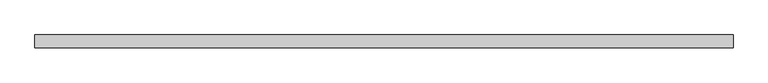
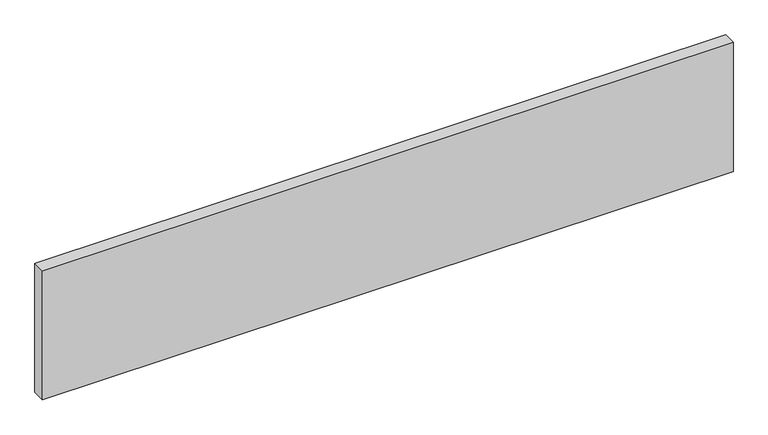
"""IFC4 building model written with IfcOpenShell, lengths in millimetres: beam geometry, Trus Joist - Rim Board Material : TJ® Rim Board – 11 7/8 x 1 1/8”."""

import ifcopenshell
import ifcopenshell.guid

model = None  # the IFC model being written
_history = None  # IfcOwnerHistory: only IFC2X3 demands one
_inside = {}  # id of a spatial element -> (the spatial element, [elements in it])
_under = {}  # id of a project, library or spatial element -> (it, [spatial elements below it])
_declared = {}  # id of a project -> (the project, [libraries it declares])
_typed = {}  # id of a type object -> (the type object, [elements of that type])
_made_of = {}  # id of a material, layer set ... -> (it, [elements and type objects made of it])


def new_model(schema):
    """Start an empty IFC model of exactly this schema.

    Asked for "IFC4X3", IfcOpenShell would pick the latest addendum, in which some entities
    have other attributes; the version numbers below select the first issue.
    IFC2X3 requires an IfcOwnerHistory on every rooted entity: one is made here for all.
    """
    global model, _history
    if schema == "IFC4X3":
        model = ifcopenshell.file(schema_version=(4, 3, 0, 0))
    else:
        model = ifcopenshell.file(schema=schema)
    _inside.clear()
    _under.clear()
    _declared.clear()
    _typed.clear()
    _made_of.clear()
    _history = None
    if model.schema == "IFC2X3":
        org = make("IfcOrganization", Name="unknown")
        user = make(
            "IfcPersonAndOrganization",
            ThePerson=make("IfcPerson", FamilyName="unknown"),
            TheOrganization=org,
        )
        app = make(
            "IfcApplication",
            ApplicationDeveloper=org,
            Version="unknown",
            ApplicationFullName="unknown",
            ApplicationIdentifier="unknown",
        )
        _history = make(
            "IfcOwnerHistory",
            OwningUser=user,
            OwningApplication=app,
            ChangeAction="ADDED",
            CreationDate=0,
        )
    return model


def make(cls, **values):
    """One entity of the class cls with the attributes given. An attribute that is None is left unset."""
    return model.create_entity(
        cls, **{name: value for name, value in values.items() if value is not None}
    )


def rooted(cls, **values):
    """An entity with a GlobalId (a new one), such as an element, a storey or a relation."""
    return make(cls, GlobalId=ifcopenshell.guid.new(), OwnerHistory=_history, **values)


def si_unit(unit_type, name, prefix=None):
    """IfcSIUnit, for example si_unit("LENGTHUNIT", "METRE", prefix="MILLI")."""
    return make("IfcSIUnit", UnitType=unit_type, Prefix=prefix, Name=name)


def assignment(units):
    """IfcUnitAssignment: the units of a project."""
    return None if units is None else make("IfcUnitAssignment", Units=units)


def point(xyz):
    """IfcCartesianPoint."""
    return None if xyz is None else make("IfcCartesianPoint", Coordinates=xyz)


def direction(xyz):
    """IfcDirection."""
    return None if xyz is None else make("IfcDirection", DirectionRatios=xyz)


def frame(location, z_axis=None, x_axis=None):
    """IfcAxis2Placement3D, a coordinate frame: its origin and axes. An axis left out is left unset."""
    return make(
        "IfcAxis2Placement3D",
        Location=point(location),
        Axis=direction(z_axis),
        RefDirection=direction(x_axis),
    )


def origin():
    """The frame at (0, 0, 0) with its axes left unset."""
    return frame((0.0, 0.0, 0.0))


def place(relative_to, where):
    """IfcLocalPlacement: puts the frame where relative to a parent placement (None: the world)."""
    return make(
        "IfcLocalPlacement", PlacementRelTo=relative_to, RelativePlacement=where
    )


def context(
    kind, dimensions, precision=None, world=None, true_north=None, identifier=None
):
    """IfcGeometricRepresentationContext, for example the 3D "Model" context."""
    return make(
        "IfcGeometricRepresentationContext",
        ContextIdentifier=identifier,
        ContextType=kind,
        CoordinateSpaceDimension=dimensions,
        Precision=precision,
        WorldCoordinateSystem=world,
        TrueNorth=true_north,
    )


def project(units=None, contexts=None):
    """IfcProject with its units and contexts."""
    return rooted(
        "IfcProject",
        Name="project",
        RepresentationContexts=contexts,
        UnitsInContext=assignment(units),
    )


def spatial(cls, under=None, at=None, **own):
    """A site, building, storey or space (cls), placed at a placement, below another one or the project."""
    s = rooted(cls, ObjectPlacement=at, **own)
    if under is not None:
        _under.setdefault(under.id(), (under, []))[1].append(s)
    return s


def polyline(points):
    """IfcPolyline through the points."""
    return make("IfcPolyline", Points=[point(p) for p in points])


def outline(outer, holes=None, kind="AREA"):
    """IfcArbitraryClosedProfileDef: a profile drawn as a closed curve; with holes, ...WithVoids."""
    if holes is None:
        return make("IfcArbitraryClosedProfileDef", ProfileType=kind, OuterCurve=outer)
    return make(
        "IfcArbitraryProfileDefWithVoids",
        ProfileType=kind,
        OuterCurve=outer,
        InnerCurves=holes,
    )


def extrude(swept, where, along, depth):
    """IfcExtrudedAreaSolid: the profile swept, set in the frame where, extruded along a direction by depth."""
    return make(
        "IfcExtrudedAreaSolid",
        SweptArea=swept,
        Position=where,
        ExtrudedDirection=direction(along),
        Depth=depth,
    )


def shape(context_of_items, identifier, shape_type, items):
    """IfcShapeRepresentation: the items that make up one representation, for example the "Body"."""
    return make(
        "IfcShapeRepresentation",
        ContextOfItems=context_of_items,
        RepresentationIdentifier=identifier,
        RepresentationType=shape_type,
        Items=items,
    )


def source(mapping_origin, context_of_items, identifier, shape_type, items):
    """IfcRepresentationMap: a shape defined once, which mapped items show again and again."""
    return make(
        "IfcRepresentationMap",
        MappingOrigin=mapping_origin,
        MappedRepresentation=shape(context_of_items, identifier, shape_type, items),
    )


def transform(
    local_origin,
    x_axis=None,
    y_axis=None,
    z_axis=None,
    scale=None,
    scale2=None,
    scale3=None,
    uniform=True,
):
    """IfcCartesianTransformationOperator3D, or its non-uniform kind. x_axis, y_axis, z_axis: its Axis1, 2, 3."""
    if uniform:
        return make(
            "IfcCartesianTransformationOperator3D",
            Axis1=direction(x_axis),
            Axis2=direction(y_axis),
            LocalOrigin=point(local_origin),
            Scale=scale,
            Axis3=direction(z_axis),
        )
    return make(
        "IfcCartesianTransformationOperator3DnonUniform",
        Axis1=direction(x_axis),
        Axis2=direction(y_axis),
        LocalOrigin=point(local_origin),
        Scale=scale,
        Axis3=direction(z_axis),
        Scale2=scale2,
        Scale3=scale3,
    )


def mapped(mapping_source, mapping_target):
    """IfcMappedItem: shows the shape of a source again, moved by a transform."""
    return make(
        "IfcMappedItem", MappingSource=mapping_source, MappingTarget=mapping_target
    )


def made_of(thing, what):
    """Note that an element or type object is made of a material, layer set ...; save() writes the relation."""
    if what is not None:
        _made_of.setdefault(what.id(), (what, []))[1].append(thing)
    return thing


def element(
    cls,
    number,
    at=None,
    inside=None,
    cuts=None,
    type_object=None,
    material=None,
    context=None,
    identifier="Body",
    shape_type=None,
    held_by="IfcProductDefinitionShape",
    body=None,
    shapes=None,
    **own,
):
    """One element of the class cls, such as IfcWall. Its Tag is "e" and its number.

    at: its placement. inside: the storey or other place that contains it. cuts: it is an
    opening in that element (IfcRelVoidsElement). A single representation is given by context,
    identifier, shape_type and body (its items); several are given by shapes. held_by: the class
    of the entity that holds the representations. save() writes the other relations.
    """
    e = rooted(cls, Tag="e%d" % number, ObjectPlacement=at, **own)
    if body is not None:
        shapes = [shape(context, identifier, shape_type, body)]
    if shapes is not None:
        e.Representation = make(held_by, Representations=shapes)
    if inside is not None:
        _inside.setdefault(inside.id(), (inside, []))[1].append(e)
    if cuts is not None:
        rooted(
            "IfcRelVoidsElement", RelatingBuildingElement=cuts, RelatedOpeningElement=e
        )
    if type_object is not None:
        _typed.setdefault(type_object.id(), (type_object, []))[1].append(e)
    return made_of(e, material)


def aggregate(whole, parts):
    """IfcRelAggregates: a whole, such as a stair, and the parts it consists of."""
    return rooted("IfcRelAggregates", RelatingObject=whole, RelatedObjects=parts)


def save(model, path):
    """Write the relations noted so far, then the file.

    IfcRelAggregates (storeys below a building ...), IfcRelContainedInSpatialStructure (elements
    in a storey), IfcRelDefinesByType, IfcRelAssociatesMaterial and IfcRelDeclares: one each for
    every whole, place, type object, material and project.
    """
    for whole, parts in _under.values():
        aggregate(whole, parts)
    for where, things in _inside.values():
        rooted(
            "IfcRelContainedInSpatialStructure",
            RelatedElements=things,
            RelatingStructure=where,
        )
    for kind, things in _typed.values():
        rooted("IfcRelDefinesByType", RelatedObjects=things, RelatingType=kind)
    for what, things in _made_of.values():
        rooted("IfcRelAssociatesMaterial", RelatedObjects=things, RelatingMaterial=what)
    for by, libraries in _declared.values():
        rooted("IfcRelDeclares", RelatingContext=by, RelatedDefinitions=libraries)
    model.write(path)


def beam_712ef8b8(model_context):
    return source(origin(), model_context, "Body", "SweptSolid", [
        extrude(outline(polyline([(752.475, 14.2875), (752.475, -14.2875), (-771.525, -14.2875), (-771.525, 14.2875), (752.475, 14.2875)])), frame((0.0, 0.0, -150.8125), z_axis=(0.0, 0.0, 1.0), x_axis=(1.0, 0.0, 0.0)), (0.0, 0.0, 1.0), 301.625),
    ])


if __name__ == "__main__":
    model = new_model("IFC4")
    model_context = context("Model", 3, world=origin())
    ifc_project = project(units=[si_unit("LENGTHUNIT", "METRE", prefix="MILLI")], contexts=[model_context])
    site = spatial("IfcSite", under=ifc_project)
    building = spatial("IfcBuilding", under=site)
    placement = place(None, origin())
    beam_shape = beam_712ef8b8(model_context)
    element("IfcBeam", 1, ObjectType="Trus Joist - Rim Board Material : TJ® Rim Board – 11 7/8 x 1 1/8”", at=placement, inside=building, context=model_context, shape_type="MappedRepresentation", body=[
        mapped(beam_shape, transform((0.0, 0.0, 0.0), x_axis=(1.0, 0.0, 0.0), y_axis=(0.0, 1.0, 0.0), z_axis=(0.0, 0.0, 1.0))),
    ])
    save(model, "model.ifc")
